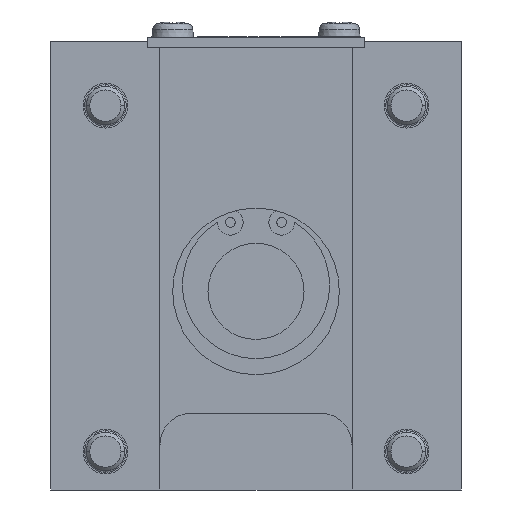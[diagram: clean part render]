
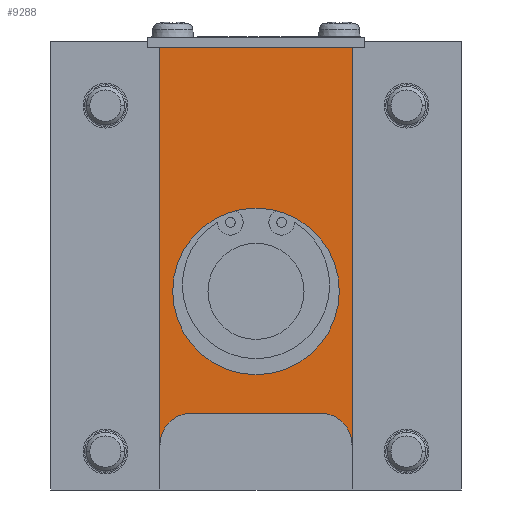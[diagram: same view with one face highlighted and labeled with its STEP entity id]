
A CAD part, front view. The second image highlights one B-rep face of the part: STEP entity #9288.
In plain terms, the highlighted planar face has unit normal (0, -1, 0).
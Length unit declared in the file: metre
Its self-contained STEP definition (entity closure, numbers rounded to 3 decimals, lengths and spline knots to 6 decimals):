
#59 = CIRCLE ( 'NONE', #12220, 0.013 ) ;
#439 = VERTEX_POINT ( 'NONE', #9555 ) ;
#749 = EDGE_CURVE ( 'NONE', #12657, #4602, #1553, .T. ) ;
#1009 = DIRECTION ( 'NONE',  ( 0., 0., -1. ) ) ;
#1020 = ORIENTED_EDGE ( 'NONE', *, *, #1518, .T. ) ;
#1073 = VERTEX_POINT ( 'NONE', #3579 ) ;
#1482 = VERTEX_POINT ( 'NONE', #11731 ) ;
#1518 = EDGE_CURVE ( 'NONE', #16320, #439, #11665, .T. ) ;
#1553 = CIRCLE ( 'NONE', #2813, 0.005 ) ;
#2691 = EDGE_CURVE ( 'NONE', #439, #1482, #11630, .T. ) ;
#2766 = ORIENTED_EDGE ( 'NONE', *, *, #2691, .T. ) ;
#2813 = AXIS2_PLACEMENT_3D ( 'NONE', #12694, #10463, #1009 ) ;
#2825 = DIRECTION ( 'NONE',  ( 0., 0., 1. ) ) ;
#2842 = DIRECTION ( 'NONE',  ( 1., 0., 0. ) ) ;
#3120 = LINE ( 'NONE', #10594, #16487 ) ;
#3141 = AXIS2_PLACEMENT_3D ( 'NONE', #15846, #14554, #5462 ) ;
#3161 = VECTOR ( 'NONE', #14103, 1. ) ;
#3195 = LINE ( 'NONE', #6753, #6646 ) ;
#3579 = CARTESIAN_POINT ( 'NONE',  ( 0., 0., -0.013 ) ) ;
#3823 = FACE_OUTER_BOUND ( 'NONE', #11727, .T. ) ;
#3995 = EDGE_CURVE ( 'NONE', #15451, #1073, #59, .T. ) ;
#4245 = CARTESIAN_POINT ( 'NONE',  ( 0.015, 0., 0.038 ) ) ;
#4602 = VERTEX_POINT ( 'NONE', #13250 ) ;
#4751 = VECTOR ( 'NONE', #12861, 1. ) ;
#5354 = DIRECTION ( 'NONE',  ( 0., -1., 0. ) ) ;
#5375 = CARTESIAN_POINT ( 'NONE',  ( 0., 0., 0. ) ) ;
#5462 = DIRECTION ( 'NONE',  ( 0., 0., -1. ) ) ;
#5528 = CARTESIAN_POINT ( 'NONE',  ( -0.015, 0., 0.038 ) ) ;
#6166 = AXIS2_PLACEMENT_3D ( 'NONE', #5375, #5354, #12093 ) ;
#6646 = VECTOR ( 'NONE', #2842, 1. ) ;
#6753 = CARTESIAN_POINT ( 'NONE',  ( 0., 0., -0.019 ) ) ;
#7159 = ORIENTED_EDGE ( 'NONE', *, *, #749, .T. ) ;
#7272 = CARTESIAN_POINT ( 'NONE',  ( 0., 0., 0. ) ) ;
#7297 = DIRECTION ( 'NONE',  ( 0., -1., 0. ) ) ;
#7301 = DIRECTION ( 'NONE',  ( 0., 0., -1. ) ) ;
#7426 = LINE ( 'NONE', #15346, #3161 ) ;
#8019 = CARTESIAN_POINT ( 'NONE',  ( -0.01, 0., -0.024 ) ) ;
#8039 = DIRECTION ( 'NONE',  ( 0., 1., 0. ) ) ;
#8099 = DIRECTION ( 'NONE',  ( 0., 0., -1. ) ) ;
#8114 = PLANE ( 'NONE',  #3141 ) ;
#8271 = EDGE_CURVE ( 'NONE', #1073, #15451, #16656, .T. ) ;
#8353 = CARTESIAN_POINT ( 'NONE',  ( 0.01, 0., -0.019 ) ) ;
#8357 = ORIENTED_EDGE ( 'NONE', *, *, #10225, .T. ) ;
#9274 = VERTEX_POINT ( 'NONE', #4245 ) ;
#9288 = ADVANCED_FACE ( 'NONE', ( #10380, #3823 ), #8114, .T. ) ;
#9555 = CARTESIAN_POINT ( 'NONE',  ( -0.015, 0., -0.024 ) ) ;
#10180 = AXIS2_PLACEMENT_3D ( 'NONE', #8019, #8039, #8099 ) ;
#10225 = EDGE_CURVE ( 'NONE', #1482, #12657, #3195, .T. ) ;
#10380 = FACE_BOUND ( 'NONE', #13424, .T. ) ;
#10463 = DIRECTION ( 'NONE',  ( 0., 1., 0. ) ) ;
#10594 = CARTESIAN_POINT ( 'NONE',  ( 0.015, 0., 0.006814 ) ) ;
#10824 = ORIENTED_EDGE ( 'NONE', *, *, #11312, .T. ) ;
#11312 = EDGE_CURVE ( 'NONE', #9274, #16320, #7426, .T. ) ;
#11630 = CIRCLE ( 'NONE', #10180, 0.005 ) ;
#11665 = LINE ( 'NONE', #12903, #4751 ) ;
#11727 = EDGE_LOOP ( 'NONE', ( #1020, #2766, #8357, #7159, #13700, #10824 ) ) ;
#11731 = CARTESIAN_POINT ( 'NONE',  ( -0.01, 0., -0.019 ) ) ;
#12093 = DIRECTION ( 'NONE',  ( 0., 0., -1. ) ) ;
#12220 = AXIS2_PLACEMENT_3D ( 'NONE', #7272, #7297, #7301 ) ;
#12657 = VERTEX_POINT ( 'NONE', #8353 ) ;
#12694 = CARTESIAN_POINT ( 'NONE',  ( 0.01, 0., -0.024 ) ) ;
#12861 = DIRECTION ( 'NONE',  ( 0., 0., -1. ) ) ;
#12903 = CARTESIAN_POINT ( 'NONE',  ( -0.015, 0., 0.006814 ) ) ;
#13224 = CARTESIAN_POINT ( 'NONE',  ( 0., 0., 0.013 ) ) ;
#13250 = CARTESIAN_POINT ( 'NONE',  ( 0.015, 0., -0.024 ) ) ;
#13424 = EDGE_LOOP ( 'NONE', ( #14864, #14501 ) ) ;
#13700 = ORIENTED_EDGE ( 'NONE', *, *, #16226, .T. ) ;
#14103 = DIRECTION ( 'NONE',  ( -1., 0., 0. ) ) ;
#14501 = ORIENTED_EDGE ( 'NONE', *, *, #3995, .F. ) ;
#14554 = DIRECTION ( 'NONE',  ( 0., -1., 0. ) ) ;
#14864 = ORIENTED_EDGE ( 'NONE', *, *, #8271, .F. ) ;
#15346 = CARTESIAN_POINT ( 'NONE',  ( 0., 0., 0.038 ) ) ;
#15451 = VERTEX_POINT ( 'NONE', #13224 ) ;
#15846 = CARTESIAN_POINT ( 'NONE',  ( -0.015, 0., 0.038 ) ) ;
#16226 = EDGE_CURVE ( 'NONE', #4602, #9274, #3120, .T. ) ;
#16320 = VERTEX_POINT ( 'NONE', #5528 ) ;
#16487 = VECTOR ( 'NONE', #2825, 1. ) ;
#16656 = CIRCLE ( 'NONE', #6166, 0.013 ) ;
